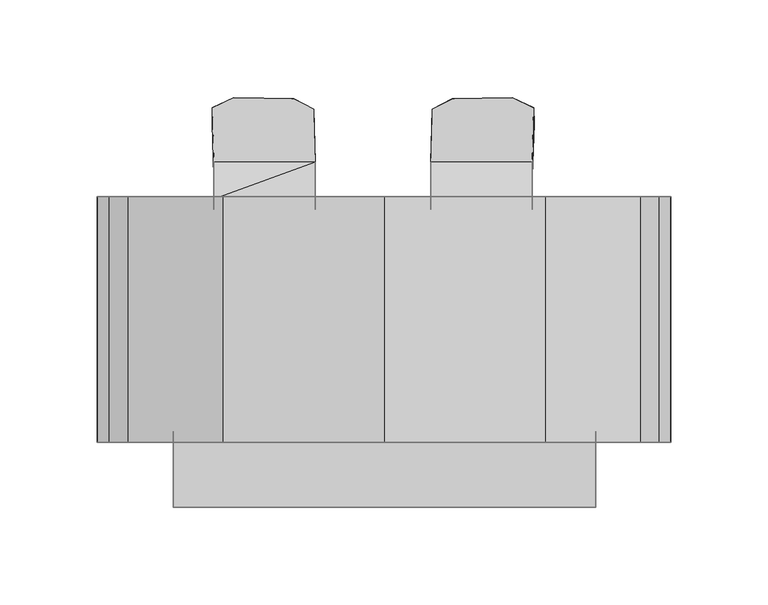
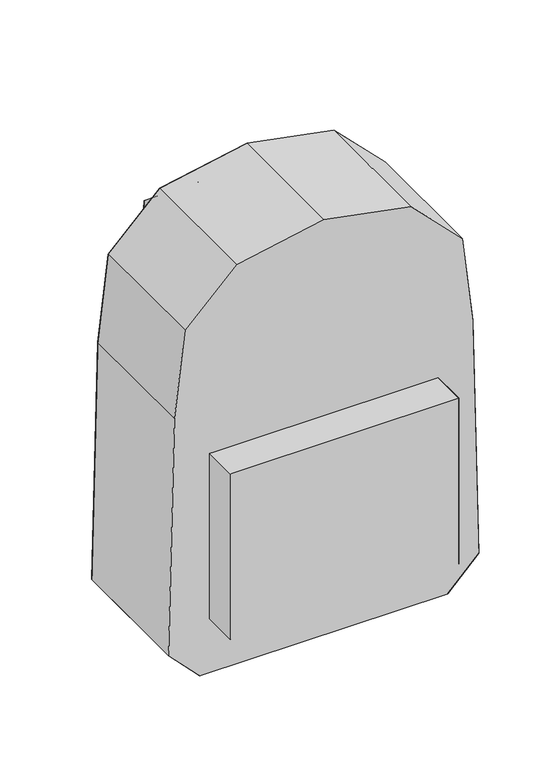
"""IFC4 building model written with IfcOpenShell, lengths in millimetres: geographic element geometry, Enscape AssetDefinition - Backpack 003 : Enscape AssetDefinition - Backpack 003."""

from ifc_helpers import new_model, si_unit, origin, place, context, project, spatial, triangles, source, transform, mapped, element, save


def geographic_element_ce42bb7d(model_context):
    return source(origin(), model_context, "Body", "Tessellation", [
        triangles([(-117.3994565, -51.0532337, 0.0), (117.7272617, -51.0532337, 0.0), (117.7272617, -177.293139, 0.0), (-117.3994565, -177.293139, 0.0), (-146.9266422, -177.293139, 30.2515692), (-146.9266422, -51.0532337, 30.2515692), (141.5357013, -51.0532337, 266.1591718), (147.2544384, -51.0532337, 30.2515692), (147.2544384, -177.293139, 30.2515692), (131.7109013, -177.293139, 351.4758574), (141.5357013, -177.293139, 266.1591718), (131.7109013, -51.0532337, 351.4758574), (82.8807241, -177.293139, 400.3060163), (0.1639039, -177.293139, 416.5824211), (82.8807241, -51.0532337, 400.3060163), (-82.5529189, -177.293139, 400.3060163), (-82.5529189, -51.0532337, 400.3060163), (-131.383087, -51.0532337, 351.4758574), (-131.383087, -177.293139, 351.4758574), (-141.207887, -51.0532337, 266.1591718), (-141.207887, -177.293139, 266.1591718), (0.1639039, -51.0532337, 416.5824211), (-107.9344728, -210.5543173, 53.2047058), (108.9574573, -171.6431568, 53.2047058), (-107.9344728, -171.6431568, 53.2047058), (-107.9344728, -171.6431568, 219.4606959), (-107.9344728, -210.5543173, 219.4606959), (108.9574573, -171.6431568, 219.4606959), (108.9574573, -210.5543173, 219.4606959), (108.9574573, -210.5543173, 53.2047058), (24.0797393, -52.4501824, 397.3284365), (76.2143614, -52.4501824, 397.3284365), (24.0797393, -33.2837878, 379.0154918), (24.9190413, -5.9900277, 75.1141288), (24.0797393, -40.8431511, 377.1616442), (76.2143614, -40.5492509, 376.4627406), (25.139463, -14.2087712, 81.2350942), (77.1544476, -13.6087317, 76.3029098), (35.4418569, -9.1409386, 13.5107669), (35.2817218, -0.7677107, 5.5190394), (34.0637479, -53.6455491, 13.8121986), (64.502767, -53.6455491, 8.0727369), (33.5531981, -53.6455491, 6.1793648), (65.9016006, -0.0951396, -0.4059918), (63.992215, -53.6455491, 0.439903), (76.9340213, -5.3899883, 70.1819444), (66.0617335, -8.4683671, 7.5857356), (76.2143614, -32.9889498, 378.3165155), (76.2143614, -57.794015, 391.802829), (24.0797393, -57.794015, 391.802829), (-35.0066637, -33.2837878, 379.0154918), (-35.8459656, -5.9900277, 75.1141288), (-87.1422282, -57.794015, 391.802829), (-87.1422282, -52.4501824, 394.2632529), (-87.1422282, -40.5492509, 376.4627406), (-35.0066637, -53.5457006, 405.4416767), (-35.0066637, -57.794015, 391.802829), (-36.0673297, -14.2087712, 81.2350942), (-35.0066637, -44.7938002, 377.1616442), (-88.0823234, -13.6087317, 76.3029098), (-76.9896048, -8.4683671, 7.5857356), (-46.369726, -9.1409386, 13.5107669), (-75.4296936, -53.6455491, 8.0727369), (-76.8294674, -0.0951396, -0.4059918), (-44.4810649, -53.6455491, 6.1793648), (-74.9200863, -53.6455491, 0.439903), (-46.2086484, -0.7677107, 5.5190394), (-87.8618972, -5.3899883, 70.1819444), (-87.1422282, -32.9889498, 378.3165155), (-44.9906677, -53.6455491, 13.8121986)], [[70, 65, 67], [68, 52, 67], [52, 68, 69], [67, 64, 68], [64, 67, 65], [65, 66, 64], [68, 64, 61], [61, 64, 66], [66, 63, 61], [62, 67, 52], [62, 61, 63], [63, 70, 62], [67, 62, 70], [61, 60, 68], [60, 61, 62], [69, 68, 60], [60, 55, 69], [62, 58, 60], [52, 58, 62], [55, 60, 58], [58, 59, 55], [55, 59, 57], [56, 57, 59], [69, 55, 53], [57, 53, 55], [53, 54, 69], [58, 52, 51], [51, 59, 58], [69, 51, 52], [59, 51, 56], [54, 56, 51], [51, 69, 54], [36, 49, 50], [49, 36, 48], [48, 32, 49], [48, 36, 38], [47, 42, 45], [46, 38, 47], [38, 46, 48], [47, 44, 46], [45, 44, 47], [44, 45, 43], [46, 44, 40], [40, 43, 41], [43, 40, 44], [39, 47, 38], [39, 41, 42], [42, 47, 39], [41, 39, 40], [34, 40, 39], [40, 34, 46], [48, 46, 34], [38, 37, 39], [39, 37, 34], [37, 38, 36], [36, 35, 37], [50, 35, 36], [35, 50, 31], [37, 35, 33], [33, 34, 37], [34, 33, 48], [31, 33, 35], [32, 48, 33], [33, 31, 32], [30, 24, 28], [28, 29, 30], [28, 26, 27], [27, 29, 28], [27, 26, 25], [25, 23, 27], [29, 27, 23], [23, 30, 29], [24, 30, 23], [23, 25, 24], [6, 17, 22], [6, 18, 17], [6, 20, 18], [18, 20, 21], [21, 20, 6], [6, 5, 21], [21, 19, 18], [17, 18, 19], [19, 16, 17], [22, 17, 16], [16, 14, 22], [14, 19, 21], [14, 16, 19], [15, 22, 14], [14, 13, 15], [9, 13, 14], [12, 15, 13], [22, 15, 12], [13, 10, 12], [9, 10, 13], [9, 11, 10], [10, 11, 7], [7, 12, 10], [22, 12, 7], [7, 11, 9], [9, 8, 7], [9, 3, 2], [2, 8, 9], [8, 2, 7], [2, 22, 7], [2, 6, 22], [2, 1, 6], [6, 1, 4], [4, 5, 6], [5, 4, 21], [4, 14, 21], [4, 9, 14], [4, 3, 9], [2, 3, 4], [4, 1, 2]], closed=False),
    ])


if __name__ == "__main__":
    model = new_model("IFC4")
    model_context = context("Model", 3, world=origin())
    ifc_project = project(units=[si_unit("LENGTHUNIT", "METRE", prefix="MILLI")], contexts=[model_context])
    site = spatial("IfcSite", under=ifc_project)
    building = spatial("IfcBuilding", under=site)
    placement = place(None, origin())
    geographic_element_shape = geographic_element_ce42bb7d(model_context)
    element("IfcGeographicElement", 1, ObjectType="Enscape AssetDefinition - Backpack 003 : Enscape AssetDefinition - Backpack 003", at=placement, inside=building, context=model_context, shape_type="MappedRepresentation", body=[
        mapped(geographic_element_shape, transform((0.0, 0.0, 0.0), x_axis=(1.0, 0.0, 0.0), y_axis=(0.0, 1.0, 0.0), z_axis=(0.0, 0.0, 1.0))),
    ])
    save(model, "model.ifc")
